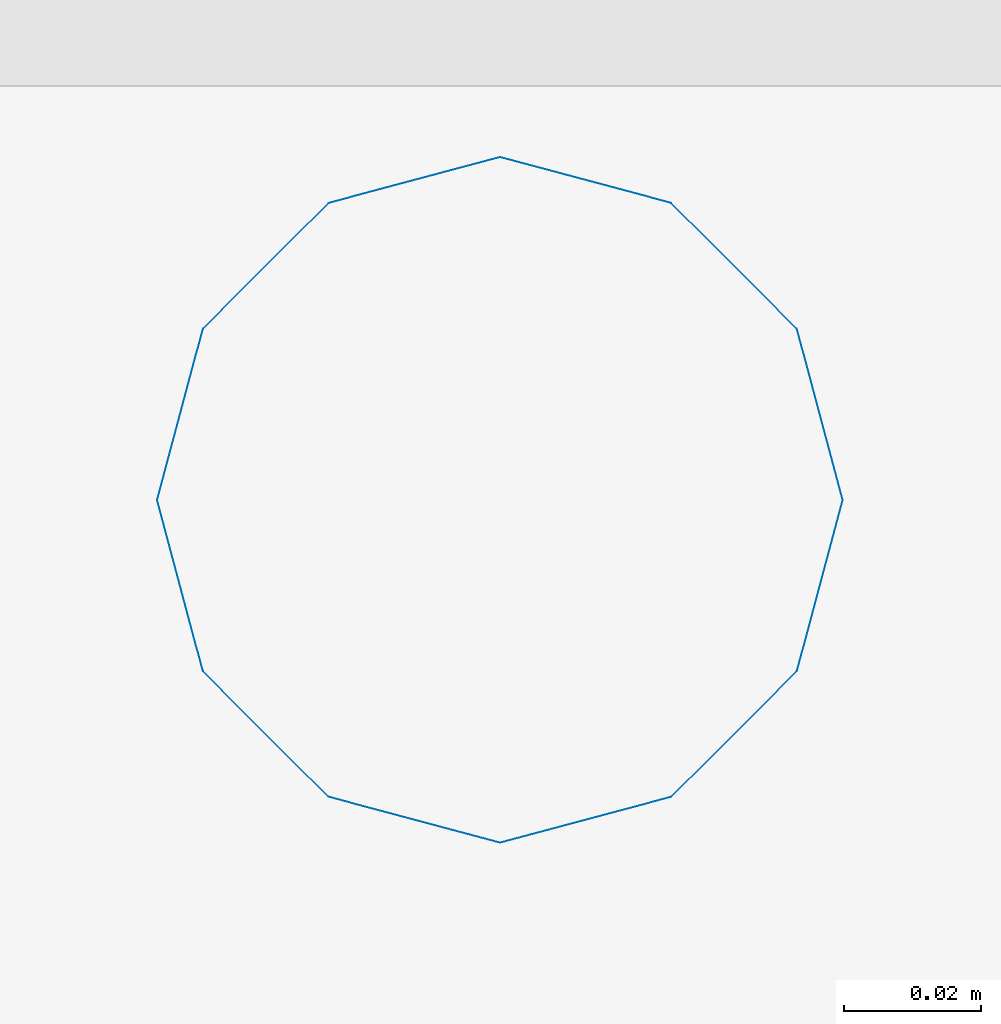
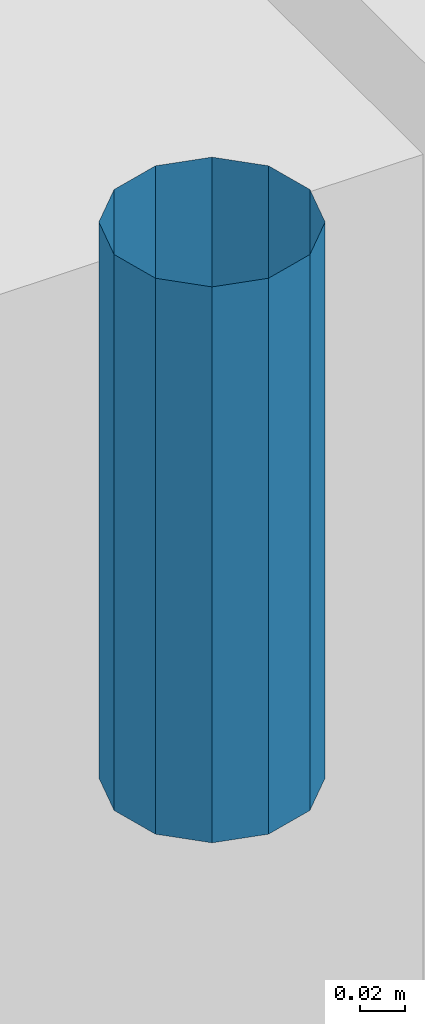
# One storey, part 36 of 41: 1 discrete accessory.
"""IFC2X3 building model written with IfcOpenShell, lengths in millimetres."""

from ifc_helpers import new_model, entity, si_unit, converted_unit, derived_unit, money_unit, direction, frame, origin_with_axes, place, context, subcontext, project, spatial, open_shell, surface_model, type_object, element, save


model = new_model("IFC2X3")

# Units and contexts
model_context = context("Model", 3, precision=0.01, world=origin_with_axes(), true_north=direction((0.0, 1.0)))
body_context = subcontext(model_context, "Body", "Model", "MODEL_VIEW")
ifc_project = project(units=[si_unit("LENGTHUNIT", "METRE", prefix="MILLI"), si_unit("AREAUNIT", "SQUARE_METRE"), si_unit("VOLUMEUNIT", "CUBIC_METRE"), converted_unit("PLANEANGLEUNIT", "DEGREE", entity("IfcPlaneAngleMeasure", 0.0174532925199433), si_unit("PLANEANGLEUNIT", "RADIAN"), dimensions=[0, 0, 0, 0, 0, 0, 0]), money_unit("USD"), converted_unit("TIMEUNIT", "Year", entity("IfcTimeMeasure", 31557600.0), si_unit("TIMEUNIT", "SECOND"), dimensions=[0, 0, 1, 0, 0, 0, 0]), si_unit("MASSUNIT", "GRAM", prefix="KILO"), si_unit("THERMODYNAMICTEMPERATUREUNIT", "DEGREE_CELSIUS"), si_unit("LUMINOUSINTENSITYUNIT", "LUMEN"), si_unit("ENERGYUNIT", "JOULE", prefix="MEGA"), derived_unit("THERMALCONDUCTANCEUNIT", [(si_unit("POWERUNIT", "WATT"), 1), (si_unit("LENGTHUNIT", "METRE"), -1), (si_unit("THERMODYNAMICTEMPERATUREUNIT", "KELVIN"), -1)]), derived_unit("SPECIFICHEATCAPACITYUNIT", [(si_unit("ENERGYUNIT", "JOULE"), 1), (si_unit("MASSUNIT", "GRAM", prefix="KILO"), -1), (si_unit("THERMODYNAMICTEMPERATUREUNIT", "KELVIN"), -1)]), derived_unit("MASSDENSITYUNIT", [(si_unit("MASSUNIT", "GRAM", prefix="KILO"), 1), (si_unit("VOLUMEUNIT", "CUBIC_METRE"), -1)])], contexts=[model_context])

# Site, building, storey
site_placement = place(None, origin_with_axes())
site = spatial("IfcSite", under=ifc_project, at=site_placement, Name="Site", CompositionType="ELEMENT")
building_placement = place(site_placement, origin_with_axes())
building = spatial("IfcBuilding", under=site, at=building_placement, Name="Bâtiment", CompositionType="ELEMENT")
storey_placement = place(building_placement, origin_with_axes())
storey = spatial("IfcBuildingStorey", under=building, at=storey_placement, Name="sousol", CompositionType="ELEMENT", Elevation=0.0)

# Discrete accessory
discrete_accessory_type = type_object("IfcDiscreteAccessoryType", Name="Tuyau descente 27")
discrete_accessory_placement = place(storey_placement, frame((2234034.012121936, -654991.4677782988, 2700.0), z_axis=(0.0, 0.0, 1.0), x_axis=(1.0, 0.0, 0.0)))
element("IfcDiscreteAccessory", 1, at=discrete_accessory_placement, inside=storey, type_object=discrete_accessory_type, Name="Obj.-318", context=body_context, shape_type="SurfaceModel", body=[
    surface_model("IfcShellBasedSurfaceModel", [(50.0, -145.4212138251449, 300.0), (43.30127018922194, -170.4212138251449, 300.0), (43.30127018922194, -170.4212138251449, 0.0), (50.0, -145.4212138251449, 0.0), (25.00000000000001, -188.7224840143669, 300.0), (25.00000000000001, -188.7224840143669, 0.0), (43.30127018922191, -120.4212138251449, 300.0), (43.30127018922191, -120.4212138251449, 0.0), (0.0, -195.4212138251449, 300.0), (0.0, -195.4212138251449, 0.0), (24.99999999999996, -102.119943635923, 300.0), (24.99999999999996, -102.119943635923, 0.0), (-24.99999999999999, -188.7224840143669, 300.0), (-24.99999999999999, -188.7224840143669, 0.0), (0.0, -95.42121382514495, 300.0), (0.0, -95.42121382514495, 0.0), (-43.30127018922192, -170.421213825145, 300.0), (-43.30127018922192, -170.421213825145, 0.0), (-25.00000000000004, -102.119943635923, 300.0), (-25.00000000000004, -102.119943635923, 0.0), (-50.0, -145.421213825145, 300.0), (-50.0, -145.421213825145, 0.0), (-43.30127018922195, -120.421213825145, 300.0), (-43.30127018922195, -120.421213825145, 0.0)], [open_shell([[[0, 1, 2, 3]], [[1, 4, 5, 2]], [[6, 0, 3, 7]], [[4, 8, 9, 5]], [[10, 6, 7, 11]], [[8, 12, 13, 9]], [[14, 10, 11, 15]], [[12, 16, 17, 13]], [[18, 14, 15, 19]], [[16, 20, 21, 17]], [[22, 18, 19, 23]], [[20, 22, 23, 21]]])]),
])

save(model, "model.ifc")
